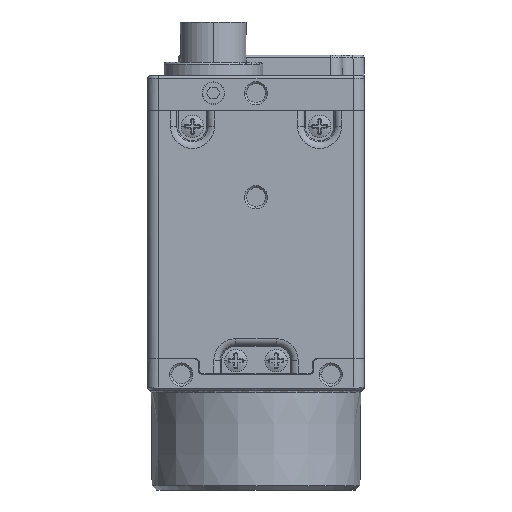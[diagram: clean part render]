
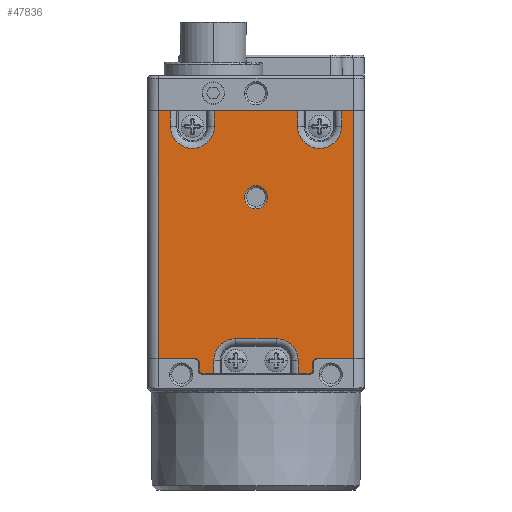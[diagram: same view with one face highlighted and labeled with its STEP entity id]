
A CAD part, front view. The second image highlights one B-rep face of the part: STEP entity #47836.
In plain terms, the highlighted planar face has unit normal (0, -1, 0).
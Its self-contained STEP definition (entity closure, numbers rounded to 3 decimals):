
#3966=DIRECTION('',(-1.,0.,0.));
#3967=VECTOR('',#3966,1.538);
#3968=CARTESIAN_POINT('',(-11.439,-14.4,
37.383));
#3969=LINE('',#3968,#3967);
#4013=DIRECTION('',(-1.,0.,0.));
#4014=VECTOR('',#4013,1.538);
#4015=CARTESIAN_POINT('',(12.977,-14.4,37.383));
#4016=LINE('',#4015,#4014);
#4037=DIRECTION('',(-1.,0.,0.));
#4038=VECTOR('',#4037,11.122);
#4039=CARTESIAN_POINT('',(5.561,-14.4,37.383));
#4040=LINE('',#4039,#4038);
#4094=DIRECTION('',(0.,0.,1.));
#4095=VECTOR('',#4094,33.165);
#4096=CARTESIAN_POINT('',(-12.977,-14.4,4.217));
#4097=LINE('',#4096,#4095);
#4098=CARTESIAN_POINT('',(-8.5,-14.4,35.25));
#4099=DIRECTION('',(0.,-1.,0.));
#4100=DIRECTION('',(-1.,0.,0.));
#4101=AXIS2_PLACEMENT_3D('',#4098,#4099,#4100);
#4103=CARTESIAN_POINT('',(8.5,-14.4,35.25));
#4104=DIRECTION('',(0.,-1.,0.));
#4105=DIRECTION('',(-1.,0.,0.));
#4106=AXIS2_PLACEMENT_3D('',#4103,#4104,#4105);
#4108=DIRECTION('',(0.,0.,1.));
#4109=VECTOR('',#4108,2.133);
#4110=CARTESIAN_POINT('',(11.439,-14.4,35.25));
#4111=LINE('',#4110,#4109);
#4112=CARTESIAN_POINT('',(8.1,-14.4,3.7));
#4113=DIRECTION('',(0.,-1.,0.));
#4114=DIRECTION('',(0.,0.,1.));
#4115=AXIS2_PLACEMENT_3D('',#4112,#4113,#4114);
#4117=CARTESIAN_POINT('',(7.1,-14.4,2.7));
#4118=DIRECTION('',(0.,1.,0.));
#4119=DIRECTION('',(1.,0.,0.));
#4120=AXIS2_PLACEMENT_3D('',#4117,#4118,#4119);
#4122=CARTESIAN_POINT('',(2.7,-14.4,3.95));
#4123=DIRECTION('',(0.,-1.,0.));
#4124=DIRECTION('',(1.,0.,0.));
#4125=AXIS2_PLACEMENT_3D('',#4122,#4123,#4124);
#4127=CARTESIAN_POINT('',(-2.7,-14.4,3.95));
#4128=DIRECTION('',(0.,-1.,0.));
#4129=DIRECTION('',(0.,0.,1.));
#4130=AXIS2_PLACEMENT_3D('',#4127,#4128,#4129);
#4132=CARTESIAN_POINT('',(-7.1,-14.4,2.7));
#4133=DIRECTION('',(0.,1.,0.));
#4134=DIRECTION('',(0.,0.,-1.));
#4135=AXIS2_PLACEMENT_3D('',#4132,#4133,#4134);
#4137=CARTESIAN_POINT('',(-8.1,-14.4,3.7));
#4138=DIRECTION('',(0.,-1.,0.));
#4139=DIRECTION('',(1.,0.,0.));
#4140=AXIS2_PLACEMENT_3D('',#4137,#4138,#4139);
#4142=CARTESIAN_POINT('',(0.,-14.4,25.8));
#4143=DIRECTION('',(0.,-1.,0.));
#4144=DIRECTION('',(0.,0.,1.));
#4145=AXIS2_PLACEMENT_3D('',#4142,#4143,#4144);
#4147=CARTESIAN_POINT('',(0.,-14.4,25.8));
#4148=DIRECTION('',(0.,-1.,0.));
#4149=DIRECTION('',(0.,0.,-1.));
#4150=AXIS2_PLACEMENT_3D('',#4147,#4148,#4149);
#4157=DIRECTION('',(0.,0.,1.));
#4158=VECTOR('',#4157,2.133);
#4159=CARTESIAN_POINT('',(-11.439,-14.4,35.25));
#4160=LINE('',#4159,#4158);
#4161=DIRECTION('',(0.,0.,-1.));
#4162=VECTOR('',#4161,2.133);
#4163=CARTESIAN_POINT('',(-5.561,-14.4,37.383));
#4164=LINE('',#4163,#4162);
#4173=DIRECTION('',(0.,0.,1.));
#4174=VECTOR('',#4173,2.133);
#4175=CARTESIAN_POINT('',(5.561,-14.4,35.25));
#4176=LINE('',#4175,#4174);
#5079=DIRECTION('',(0.,0.,1.));
#5080=VECTOR('',#5079,33.165);
#5081=CARTESIAN_POINT('',(12.977,-14.4,4.217));
#5082=LINE('',#5081,#5080);
#5094=DIRECTION('',(1.,0.,0.));
#5095=VECTOR('',#5094,4.877);
#5096=CARTESIAN_POINT('',(8.1,-14.4,4.217));
#5097=LINE('',#5096,#5095);
#5435=DIRECTION('',(1.,0.,0.));
#5436=VECTOR('',#5435,4.877);
#5437=CARTESIAN_POINT('',(-12.977,-14.4,4.217));
#5438=LINE('',#5437,#5436);
#5475=DIRECTION('',(0.,0.,-1.));
#5476=VECTOR('',#5475,1.);
#5477=CARTESIAN_POINT('',(-7.583,-14.4,3.7));
#5478=LINE('',#5477,#5476);
#5491=DIRECTION('',(1.,0.,0.));
#5492=VECTOR('',#5491,1.461);
#5493=CARTESIAN_POINT('',(-7.1,-14.4,2.217));
#5494=LINE('',#5493,#5492);
#5513=DIRECTION('',(1.,0.,0.));
#5514=VECTOR('',#5513,1.461);
#5515=CARTESIAN_POINT('',(5.639,-14.4,2.217));
#5516=LINE('',#5515,#5514);
#5615=DIRECTION('',(0.,0.,1.));
#5616=VECTOR('',#5615,1.733);
#5617=CARTESIAN_POINT('',(-5.639,-14.4,2.217));
#5618=LINE('',#5617,#5616);
#5632=DIRECTION('',(1.,0.,0.));
#5633=VECTOR('',#5632,5.4);
#5634=CARTESIAN_POINT('',(-2.7,-14.4,6.889));
#5635=LINE('',#5634,#5633);
#5646=DIRECTION('',(0.,0.,-1.));
#5647=VECTOR('',#5646,1.733);
#5648=CARTESIAN_POINT('',(5.639,-14.4,3.95));
#5649=LINE('',#5648,#5647);
#7415=DIRECTION('',(0.,0.,1.));
#7416=VECTOR('',#7415,1.);
#7417=CARTESIAN_POINT('',(7.583,-14.4,2.7));
#7418=LINE('',#7417,#7416);
#40642=CARTESIAN_POINT('',(-12.977,-14.4,4.217));
#40643=CARTESIAN_POINT('',(-12.977,-14.4,37.383));
#40644=VERTEX_POINT('',#40642);
#40645=VERTEX_POINT('',#40643);
#40646=CARTESIAN_POINT('',(-11.439,-14.4,
37.383));
#40647=VERTEX_POINT('',#40646);
#40648=CARTESIAN_POINT('',(-11.439,-14.4,35.25));
#40649=VERTEX_POINT('',#40648);
#40650=CARTESIAN_POINT('',(-5.561,-14.4,35.25));
#40651=VERTEX_POINT('',#40650);
#40652=CARTESIAN_POINT('',(-5.561,-14.4,37.383));
#40653=VERTEX_POINT('',#40652);
#40654=CARTESIAN_POINT('',(5.561,-14.4,
37.383));
#40655=VERTEX_POINT('',#40654);
#40656=CARTESIAN_POINT('',(5.561,-14.4,35.25));
#40657=VERTEX_POINT('',#40656);
#40658=CARTESIAN_POINT('',(11.439,-14.4,35.25));
#40659=VERTEX_POINT('',#40658);
#40660=CARTESIAN_POINT('',(11.439,-14.4,37.383));
#40661=VERTEX_POINT('',#40660);
#40662=CARTESIAN_POINT('',(12.977,-14.4,37.383));
#40663=VERTEX_POINT('',#40662);
#40664=CARTESIAN_POINT('',(12.977,-14.4,4.217));
#40665=VERTEX_POINT('',#40664);
#40666=CARTESIAN_POINT('',(7.583,-14.4,2.7));
#40667=CARTESIAN_POINT('',(7.583,-14.4,3.7));
#40668=VERTEX_POINT('',#40666);
#40669=VERTEX_POINT('',#40667);
#40670=CARTESIAN_POINT('',(7.1,-14.4,2.217));
#40671=VERTEX_POINT('',#40670);
#40672=CARTESIAN_POINT('',(5.639,-14.4,
2.217));
#40673=VERTEX_POINT('',#40672);
#40674=CARTESIAN_POINT('',(5.639,-14.4,3.95));
#40675=VERTEX_POINT('',#40674);
#40676=CARTESIAN_POINT('',(2.7,-14.4,6.889));
#40677=VERTEX_POINT('',#40676);
#40678=CARTESIAN_POINT('',(-2.7,-14.4,6.889));
#40679=VERTEX_POINT('',#40678);
#40680=CARTESIAN_POINT('',(-5.639,-14.4,3.95));
#40681=VERTEX_POINT('',#40680);
#40682=CARTESIAN_POINT('',(-5.639,-14.4,2.217));
#40683=VERTEX_POINT('',#40682);
#40684=CARTESIAN_POINT('',(-7.1,-14.4,2.217));
#40685=VERTEX_POINT('',#40684);
#40686=CARTESIAN_POINT('',(-7.583,-14.4,2.7));
#40687=VERTEX_POINT('',#40686);
#40688=CARTESIAN_POINT('',(-7.583,-14.4,3.7));
#40689=VERTEX_POINT('',#40688);
#40690=CARTESIAN_POINT('',(0.,-14.4,27.35));
#40691=CARTESIAN_POINT('',(0.,-14.4,24.25));
#40692=VERTEX_POINT('',#40690);
#40693=VERTEX_POINT('',#40691);
#40714=CARTESIAN_POINT('',(8.1,-14.4,4.217));
#40715=VERTEX_POINT('',#40714);
#40718=CARTESIAN_POINT('',(-8.1,-14.4,4.217));
#40719=VERTEX_POINT('',#40718);
#47776=CARTESIAN_POINT('',(0.,-14.4,19.8));
#47777=DIRECTION('',(0.,1.,0.));
#47778=DIRECTION('',(-1.,0.,0.));
#47779=AXIS2_PLACEMENT_3D('',#47776,#47777,#47778);
#47780=PLANE('',#47779);
#47781=ORIENTED_EDGE('',*,*,#47219,.T.);
#47782=ORIENTED_EDGE('',*,*,#47664,.F.);
#47784=ORIENTED_EDGE('',*,*,#47783,.F.);
#47785=ORIENTED_EDGE('',*,*,#47766,.T.);
#47787=ORIENTED_EDGE('',*,*,#47786,.F.);
#47788=ORIENTED_EDGE('',*,*,#47692,.F.);
#47790=ORIENTED_EDGE('',*,*,#47789,.F.);
#47792=ORIENTED_EDGE('',*,*,#47791,.T.);
#47794=ORIENTED_EDGE('',*,*,#47793,.T.);
#47795=ORIENTED_EDGE('',*,*,#47680,.F.);
#47797=ORIENTED_EDGE('',*,*,#47796,.F.);
#47799=ORIENTED_EDGE('',*,*,#47798,.F.);
#47801=ORIENTED_EDGE('',*,*,#47800,.T.);
#47803=ORIENTED_EDGE('',*,*,#47802,.F.);
#47805=ORIENTED_EDGE('',*,*,#47804,.T.);
#47807=ORIENTED_EDGE('',*,*,#47806,.F.);
#47809=ORIENTED_EDGE('',*,*,#47808,.F.);
#47811=ORIENTED_EDGE('',*,*,#47810,.T.);
#47813=ORIENTED_EDGE('',*,*,#47812,.F.);
#47815=ORIENTED_EDGE('',*,*,#47814,.T.);
#47817=ORIENTED_EDGE('',*,*,#47816,.F.);
#47819=ORIENTED_EDGE('',*,*,#47818,.F.);
#47821=ORIENTED_EDGE('',*,*,#47820,.T.);
#47823=ORIENTED_EDGE('',*,*,#47822,.F.);
#47825=ORIENTED_EDGE('',*,*,#47824,.T.);
#47827=ORIENTED_EDGE('',*,*,#47826,.F.);
#47828=EDGE_LOOP('',(#47781,#47782,#47784,#47785,#47787,#47788,#47790,#47792,
#47794,#47795,#47797,#47799,#47801,#47803,#47805,#47807,#47809,#47811,#47813,
#47815,#47817,#47819,#47821,#47823,#47825,#47827));
#47829=FACE_OUTER_BOUND('',#47828,.F.);
#47831=ORIENTED_EDGE('',*,*,#47830,.T.);
#47833=ORIENTED_EDGE('',*,*,#47832,.T.);
#47834=EDGE_LOOP('',(#47831,#47833));
#47835=FACE_BOUND('',#47834,.F.);
#47836=ADVANCED_FACE('',(#47829,#47835),#47780,.F.);
#4102=CIRCLE('',#4101,2.939);
#4107=CIRCLE('',#4106,2.939);
#4116=CIRCLE('',#4115,0.517);
#4121=CIRCLE('',#4120,0.483);
#4126=CIRCLE('',#4125,2.939);
#4131=CIRCLE('',#4130,2.939);
#4136=CIRCLE('',#4135,0.483);
#4141=CIRCLE('',#4140,0.517);
#4146=CIRCLE('',#4145,1.55);
#4151=CIRCLE('',#4150,1.55);
#47219=EDGE_CURVE('',#40644,#40645,#4097,.T.);
#47664=EDGE_CURVE('',#40647,#40645,#3969,.T.);
#47680=EDGE_CURVE('',#40663,#40661,#4016,.T.);
#47692=EDGE_CURVE('',#40655,#40653,#4040,.T.);
#47766=EDGE_CURVE('',#40649,#40651,#4102,.T.);
#47783=EDGE_CURVE('',#40649,#40647,#4160,.T.);
#47786=EDGE_CURVE('',#40653,#40651,#4164,.T.);
#47789=EDGE_CURVE('',#40657,#40655,#4176,.T.);
#47791=EDGE_CURVE('',#40657,#40659,#4107,.T.);
#47793=EDGE_CURVE('',#40659,#40661,#4111,.T.);
#47796=EDGE_CURVE('',#40665,#40663,#5082,.T.);
#47798=EDGE_CURVE('',#40715,#40665,#5097,.T.);
#47800=EDGE_CURVE('',#40715,#40669,#4116,.T.);
#47802=EDGE_CURVE('',#40668,#40669,#7418,.T.);
#47804=EDGE_CURVE('',#40668,#40671,#4121,.T.);
#47806=EDGE_CURVE('',#40673,#40671,#5516,.T.);
#47808=EDGE_CURVE('',#40675,#40673,#5649,.T.);
#47810=EDGE_CURVE('',#40675,#40677,#4126,.T.);
#47812=EDGE_CURVE('',#40679,#40677,#5635,.T.);
#47814=EDGE_CURVE('',#40679,#40681,#4131,.T.);
#47816=EDGE_CURVE('',#40683,#40681,#5618,.T.);
#47818=EDGE_CURVE('',#40685,#40683,#5494,.T.);
#47820=EDGE_CURVE('',#40685,#40687,#4136,.T.);
#47822=EDGE_CURVE('',#40689,#40687,#5478,.T.);
#47824=EDGE_CURVE('',#40689,#40719,#4141,.T.);
#47826=EDGE_CURVE('',#40644,#40719,#5438,.T.);
#47830=EDGE_CURVE('',#40692,#40693,#4146,.T.);
#47832=EDGE_CURVE('',#40693,#40692,#4151,.T.);
